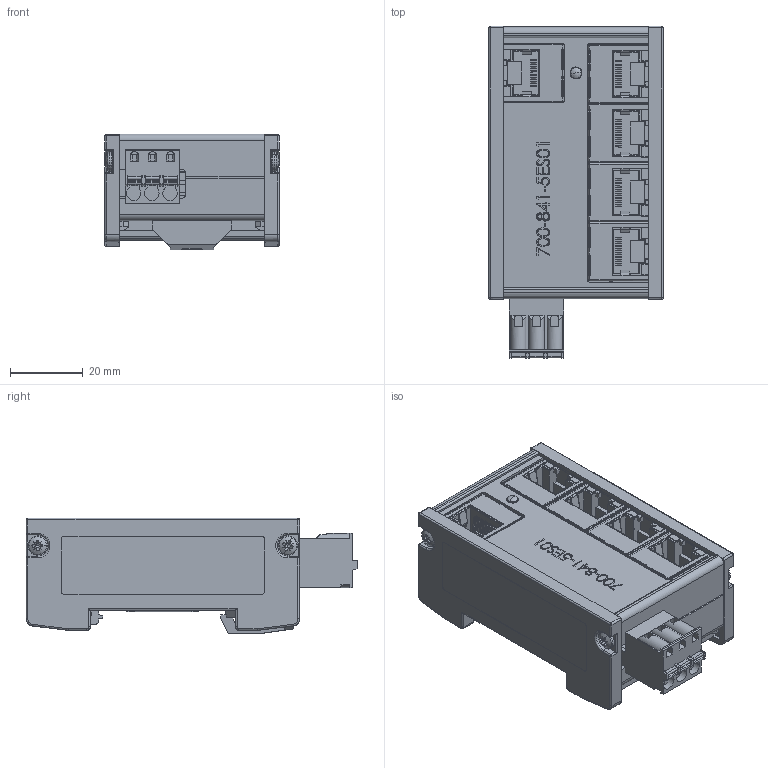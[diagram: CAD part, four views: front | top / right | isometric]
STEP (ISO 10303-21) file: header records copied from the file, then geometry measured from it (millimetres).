
FILE_DESCRIPTION (( 'STEP AP214' ), '1' );
FILE_NAME ('700-841-5ES01_V00-00.STEP', '2019-05-29T07:16:21', ( '' ), ( '' ), 'SwSTEP 2.0', 'SolidWorks 2019', '' );
FILE_SCHEMA (( 'AUTOMOTIVE_DESIGN' ));
Length unit declared in the file: millimetre
Products named in the file (30): g-alu-087_V00-21; sp06503vgnc; ps-alu-208_V00-01; Artikelnummer_700-841-5ES01; RJ45 90 Dummy V00-00; m-k30x08-bj V 00-10; SchraubefürHutschienenclip; PLP2-xxx; g-alu-002_V00-00; g-alu-002_V00-00_RAL 6034; g-alu-001 V01-03; g-alu-087_V00-21_cutout for 5.08 grid; 700-841-5ES01_V00-00; sp06503vgnc_steckbare Reihenklemme 3-polig RM5,00; g-alu-001 V01-03_RAL 6034 ; PLP2-xxx_PLP2-500
Assembly tree (19 placements, depth 2):
  g-alu-087_V00-21
  sp06503vgnc
  Artikelnummer_700-841-5ES01
  RJ45 90 Dummy V00-00
  RJ45 90 Dummy V00-00
Bounding box: 48 x 91.5 x 31.98 mm (x, y, z)
Volume: 45288.3 mm3; surface area: 58992.9 mm2
Topology: 36 solids, 36 shells, 4814 faces, 13087 edges, 8451 vertices
Faces by surface type: plane 3336, cylinder 884, bspline 323, cone 116, torus 101, sphere 54
Entity records: 70149 total; most frequent: CARTESIAN_POINT 21240, ORIENTED_EDGE 8732, DIRECTION 7587, EDGE_CURVE 4366, VECTOR 3141, LINE 3141, VERTEX_POINT 2840, AXIS2_PLACEMENT_3D 2223
